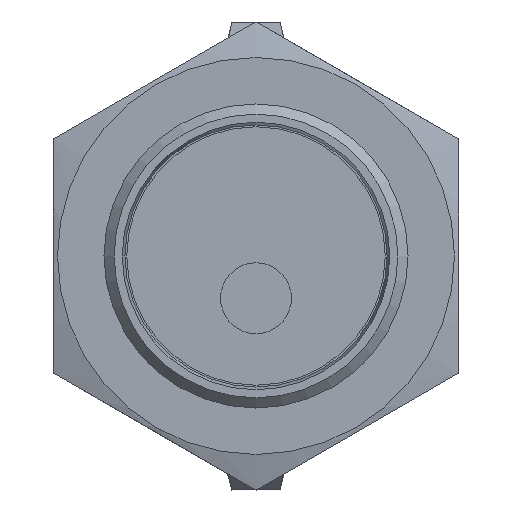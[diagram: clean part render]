
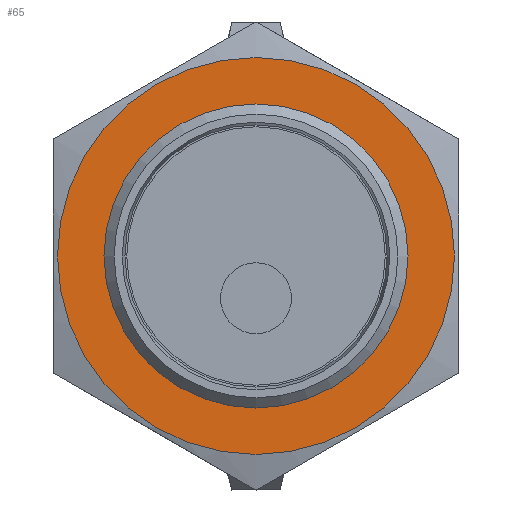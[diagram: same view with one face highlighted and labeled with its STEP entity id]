
A CAD part, left-side view. The second image highlights one B-rep face of the part: STEP entity #65.
In plain terms, the highlighted planar face has unit normal (-1, 0, 0) as drawn and (0, -1, 0) by its records, which use the part's own axes.
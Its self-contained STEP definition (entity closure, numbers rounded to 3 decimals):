
#65 = ADVANCED_FACE( '', ( #152, #153 ), #154, .F. );
#152 = FACE_BOUND( '', #278, .T. );
#153 = FACE_OUTER_BOUND( '', #279, .T. );
#154 = PLANE( '', #280 );
#278 = EDGE_LOOP( '', ( #398 ) );
#279 = EDGE_LOOP( '', ( #399 ) );
#280 = AXIS2_PLACEMENT_3D( '', #400, #401, #402 );
#398 = ORIENTED_EDGE( '', *, *, #628, .F. );
#399 = ORIENTED_EDGE( '', *, *, #629, .T. );
#400 = CARTESIAN_POINT( '', ( 0., -2., 0. ) );
#401 = DIRECTION( '', ( 0., 1., 0. ) );
#402 = DIRECTION( '', ( 0., 0., 1. ) );
#628 = EDGE_CURVE( '', #712, #712, #713, .T. );
#629 = EDGE_CURVE( '', #714, #714, #715, .T. );
#712 = VERTEX_POINT( '', #837 );
#713 = CIRCLE( '', #838, 8.459 );
#714 = VERTEX_POINT( '', #839 );
#715 = CIRCLE( '', #840, 11.75 );
#837 = CARTESIAN_POINT( '', ( 8.459, -2., 0. ) );
#838 = AXIS2_PLACEMENT_3D( '', #1073, #1074, #1075 );
#839 = CARTESIAN_POINT( '', ( 0., -2., -11.75 ) );
#840 = AXIS2_PLACEMENT_3D( '', #1076, #1077, #1078 );
#1073 = CARTESIAN_POINT( '', ( 0., -2., 0. ) );
#1074 = DIRECTION( '', ( 0., -1., 0. ) );
#1075 = DIRECTION( '', ( 1., 0., 0. ) );
#1076 = CARTESIAN_POINT( '', ( 0., -2., 0. ) );
#1077 = DIRECTION( '', ( 0., -1., 0. ) );
#1078 = DIRECTION( '', ( 0., 0., -1. ) );
